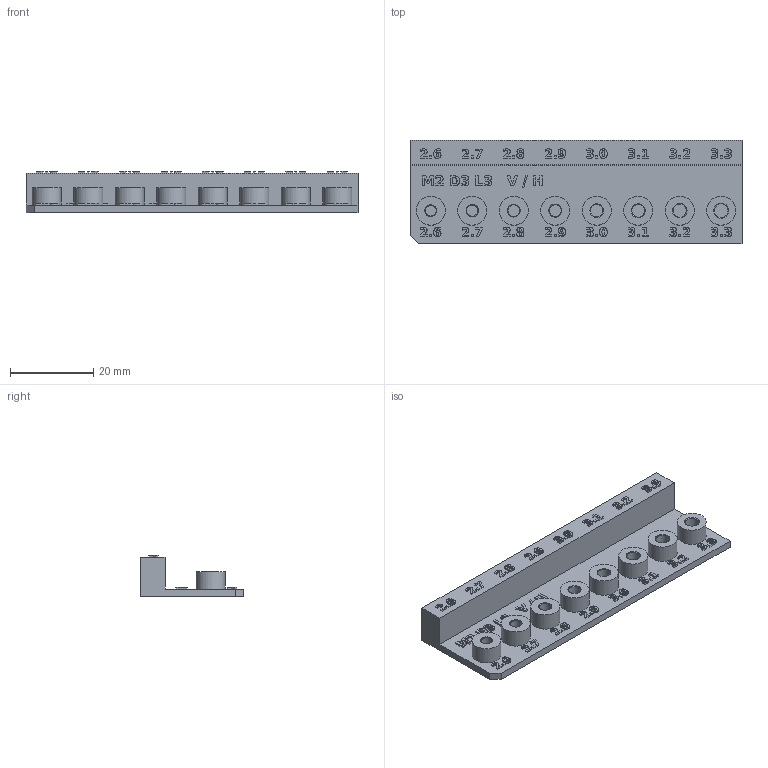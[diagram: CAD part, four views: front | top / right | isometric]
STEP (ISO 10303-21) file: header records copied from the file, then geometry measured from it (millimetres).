
FILE_DESCRIPTION(('FreeCAD Model'),'2;1');
FILE_NAME('Open CASCADE Shape Model','2026-10-22T07:18:56',('FreeCAD'),( 'FreeCAD'),'Open CASCADE STEP processor 7.8','FreeCAD','Unknown');
FILE_SCHEMA(('AUTOMOTIVE_DESIGN { 1 0 10303 214 1 1 1 1 }'));
Length unit declared in the file: millimetre
Products named in the file (1): Open CASCADE STEP translator 7.8 1
Bounding box: 80 x 25 x 9.89 mm (x, y, z)
Volume: 8226.2 mm3; surface area: 7138.4 mm2
Topology: 1 solids, 1 shells, 1054 faces, 2864 edges, 1904 vertices
Faces by surface type: extrusion 624, plane 390, cylinder 24, cone 16
Full cylindrical faces by diameter (mm): 2.6 x2, 2.7 x2, 2.8 x2, 2.9 x2, 3 x2, 3.1 x2, 3.2 x2, 3.3 x2, 7 x8
Entity records: 36842 total; most frequent: CARTESIAN_POINT 12607, ORIENTED_EDGE 5728, DIRECTION 3166, EDGE_CURVE 2864, VECTOR 2176, VERTEX_POINT 1904, B_SPLINE_CURVE_WITH_KNOTS 1872, LINE 1552
